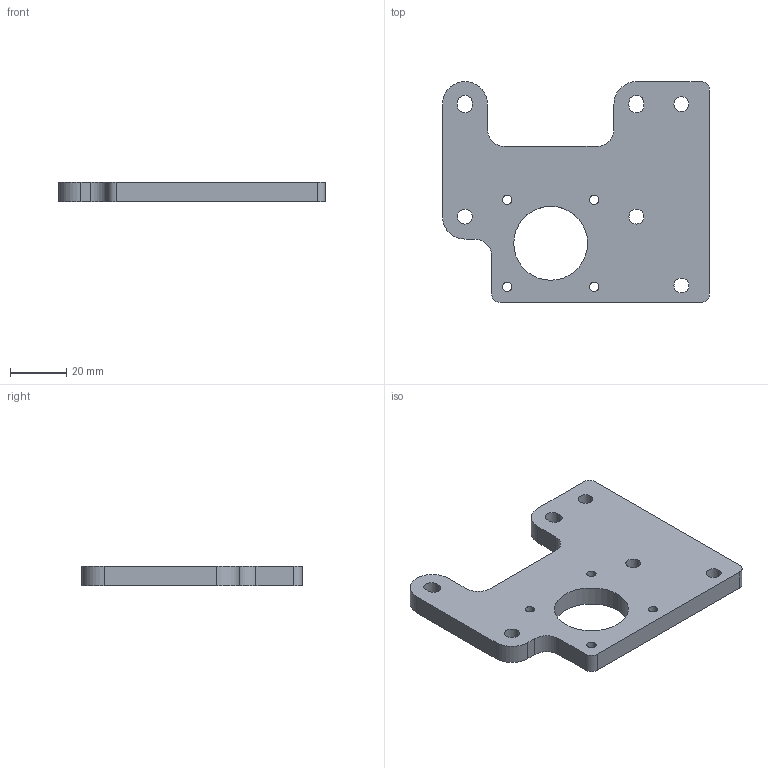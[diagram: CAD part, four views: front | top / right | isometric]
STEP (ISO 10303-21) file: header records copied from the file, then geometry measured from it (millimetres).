
FILE_DESCRIPTION (( 'STEP AP214' ), '1' );
FILE_NAME ('Plate_H.STEP', '2026-04-26T08:16:06', ( '' ), ( '' ), 'SwSTEP 2.0', 'SolidWorks 2010', '' );
FILE_SCHEMA (( 'AUTOMOTIVE_DESIGN' ));
Length unit declared in the file: millimetre
Products named in the file (1): Plate_H
Bounding box: 95 x 78.5 x 7 mm (x, y, z)
Volume: 36895.3 mm3; surface area: 14711.2 mm2
Topology: 1 solids, 1 shells, 46 faces, 132 edges, 88 vertices
Faces by surface type: cylinder 31, plane 15
Entity records: 1616 total; most frequent: DIRECTION 288, CARTESIAN_POINT 267, ORIENTED_EDGE 264, EDGE_CURVE 132, AXIS2_PLACEMENT_3D 109, VERTEX_POINT 88, VECTOR 70, LINE 70
